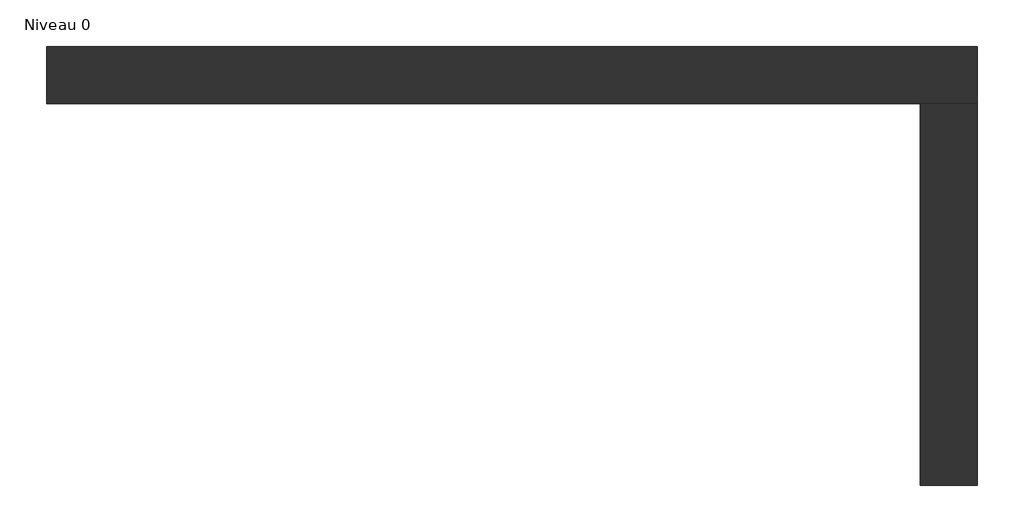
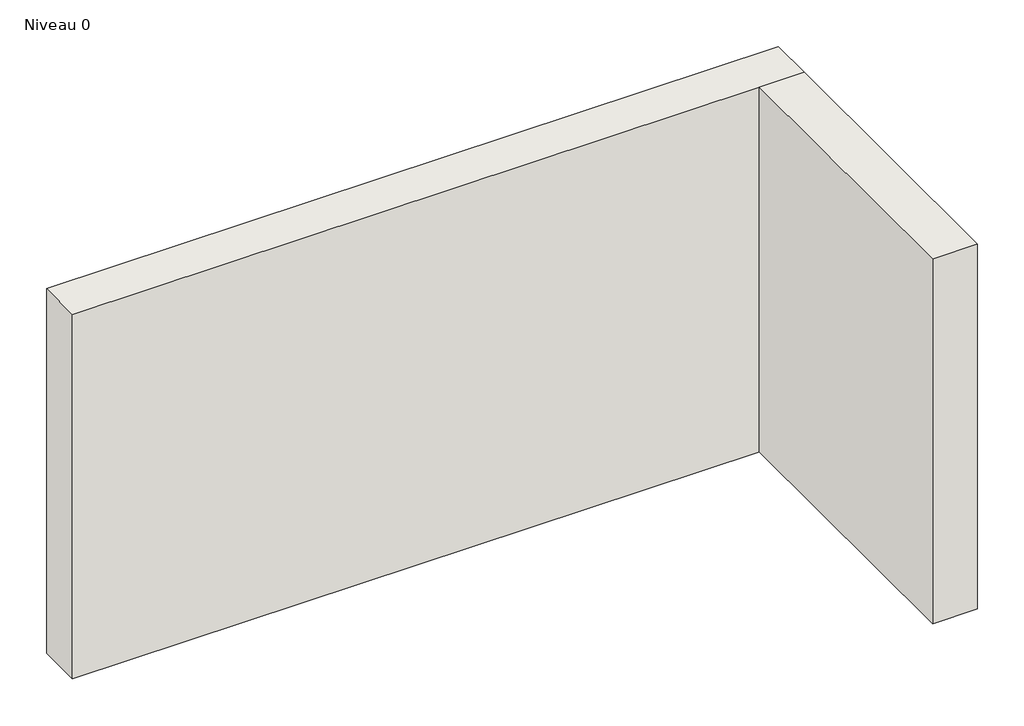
# One storey: 2 walls.
"""IFC4 building model written with IfcOpenShell, lengths in millimetres."""

from ifc_helpers import new_model, si_unit, origin, origin_with_axes, place, context, project, spatial, polyline, outline, extrude, faceted_brep, element, save

model = new_model("IFC4")

# Units and contexts
model_context = context("Model", 3, world=origin())
ifc_project = project(units=[si_unit("LENGTHUNIT", "METRE", prefix="MILLI")], contexts=[model_context])

# Site, building, storey
site = spatial("IfcSite", under=ifc_project)
building = spatial("IfcBuilding", under=site)
storey = spatial("IfcBuildingStorey", under=building, Name="Niveau 0", Elevation=0.0)

# Walls
placement = place(None, origin())
element("IfcWall", 1, ObjectType="Ext. Parpaing 20 + Isolant 10", at=placement, inside=storey, context=model_context, shape_type="Brep", body=[
    faceted_brep([(-21112.0453488, 979.5040334, 0.0), (-16216.5626304, 979.5040334, 0.0), (-15896.5626304, 979.5040334, 0.0), (-15896.5626304, 979.5040334, 2750.0), (-16216.5626304, 979.5040334, 2750.0), (-21112.0453488, 979.5040334, 2750.0), (-21112.0453488, 1299.5040334, 0.0), (-21112.0453488, 1299.5040334, 2750.0), (-15896.5626304, 1299.5040334, 2750.0), (-15896.5626304, 1299.5040334, 0.0)], [[[0, 1, 2, 3, 4, 5]], [[6, 7, 8, 9]], [[2, 1, 0, 6, 9]], [[5, 4, 3, 8, 7]], [[0, 5, 7, 6]], [[3, 2, 9, 8]]]),
])
element("IfcWall", 2, ObjectType="Ext. Parpaing 20 + Isolant 10", at=placement, inside=storey, context=model_context, shape_type="SweptSolid", body=[
    extrude(outline(polyline([(-16216.5626304, -1160.4959666), (-16216.5626304, 979.5040334), (-15896.5626304, 979.5040334), (-15896.5626304, -1160.4959666), (-16216.5626304, -1160.4959666)])), origin_with_axes(), (0.0, 0.0, 1.0), 2750.0),
])

save(model, "model.ifc")
